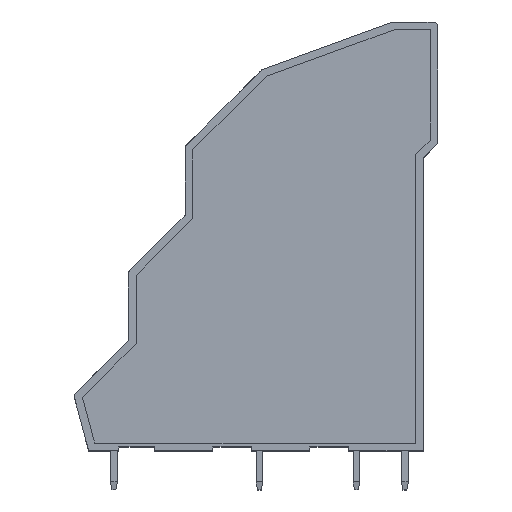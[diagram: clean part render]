
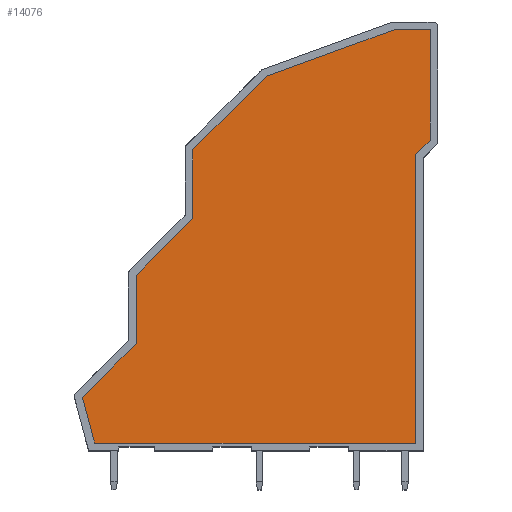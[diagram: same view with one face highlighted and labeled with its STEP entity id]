
A CAD part, top view. The second image highlights one B-rep face of the part: STEP entity #14076.
In plain terms, the highlighted planar face has unit normal (0, 0, 1).
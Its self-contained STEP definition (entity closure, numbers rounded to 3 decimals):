
#4565=DIRECTION('',(0.707,0.707,0.));
#4566=VECTOR('',#4565,10.742);
#4567=CARTESIAN_POINT('',(12.232,31.014,17.2));
#4568=LINE('',#4567,#4566);
#4569=DIRECTION('',(0.94,0.342,0.));
#4570=VECTOR('',#4569,14.005);
#4571=CARTESIAN_POINT('',(19.828,38.61,17.2));
#4572=LINE('',#4571,#4570);
#4573=DIRECTION('',(1.,0.,0.));
#4574=VECTOR('',#4573,3.711);
#4575=CARTESIAN_POINT('',(32.989,43.4,17.2));
#4576=LINE('',#4575,#4574);
#4577=DIRECTION('',(0.,-1.,0.));
#4578=VECTOR('',#4577,11.369);
#4579=CARTESIAN_POINT('',(36.7,43.4,17.2));
#4580=LINE('',#4579,#4578);
#4581=DIRECTION('',(-0.707,-0.707,0.));
#4582=VECTOR('',#4581,2.121);
#4583=CARTESIAN_POINT('',(36.7,32.031,17.2));
#4584=LINE('',#4583,#4582);
#4585=DIRECTION('',(0.,-1.,0.));
#4586=VECTOR('',#4585,29.731);
#4587=CARTESIAN_POINT('',(35.2,30.531,17.2));
#4588=LINE('',#4587,#4586);
#4589=DIRECTION('',(-1.,0.,0.));
#4590=VECTOR('',#4589,33.086);
#4591=CARTESIAN_POINT('',(35.2,0.8,17.2));
#4592=LINE('',#4591,#4590);
#4593=DIRECTION('',(-0.259,0.966,0.));
#4594=VECTOR('',#4593,4.861);
#4595=CARTESIAN_POINT('',(2.114,0.8,17.2));
#4596=LINE('',#4595,#4594);
#4597=DIRECTION('',(0.707,0.707,0.));
#4598=VECTOR('',#4597,7.841);
#4599=CARTESIAN_POINT('',(0.856,5.495,17.2));
#4600=LINE('',#4599,#4598);
#4601=DIRECTION('',(0.,1.,0.));
#4602=VECTOR('',#4601,7.071);
#4603=CARTESIAN_POINT('',(6.4,11.04,17.2));
#4604=LINE('',#4603,#4602);
#4605=DIRECTION('',(0.707,0.707,0.));
#4606=VECTOR('',#4605,8.248);
#4607=CARTESIAN_POINT('',(6.4,18.111,17.2));
#4608=LINE('',#4607,#4606);
#4609=DIRECTION('',(0.,1.,0.));
#4610=VECTOR('',#4609,7.071);
#4611=CARTESIAN_POINT('',(12.232,23.943,17.2));
#4612=LINE('',#4611,#4610);
#6717=CARTESIAN_POINT('',(19.828,38.61,17.2));
#6718=VERTEX_POINT('',#6717);
#6719=CARTESIAN_POINT('',(12.232,31.014,17.2));
#6720=VERTEX_POINT('',#6719);
#6721=CARTESIAN_POINT('',(32.989,43.4,17.2));
#6722=VERTEX_POINT('',#6721);
#6723=CARTESIAN_POINT('',(36.7,43.4,17.2));
#6724=VERTEX_POINT('',#6723);
#6725=CARTESIAN_POINT('',(36.7,32.031,17.2));
#6726=VERTEX_POINT('',#6725);
#6727=CARTESIAN_POINT('',(35.2,30.531,17.2));
#6728=VERTEX_POINT('',#6727);
#6729=CARTESIAN_POINT('',(35.2,0.8,17.2));
#6730=VERTEX_POINT('',#6729);
#6731=CARTESIAN_POINT('',(2.114,0.8,17.2));
#6732=VERTEX_POINT('',#6731);
#6733=CARTESIAN_POINT('',(0.856,5.495,17.2));
#6734=VERTEX_POINT('',#6733);
#6735=CARTESIAN_POINT('',(6.4,11.04,17.2));
#6736=VERTEX_POINT('',#6735);
#6737=CARTESIAN_POINT('',(6.4,18.111,17.2));
#6738=VERTEX_POINT('',#6737);
#6739=CARTESIAN_POINT('',(12.232,23.943,17.2));
#6740=VERTEX_POINT('',#6739);
#14057=CARTESIAN_POINT('',(37.5,813.386,17.2));
#14058=DIRECTION('',(0.,0.,1.));
#14059=DIRECTION('',(1.,0.,0.));
#14060=AXIS2_PLACEMENT_3D('',#14057,#14058,#14059);
#14061=PLANE('',#14060);
#14062=ORIENTED_EDGE('',*,*,#13897,.T.);
#14063=ORIENTED_EDGE('',*,*,#13912,.T.);
#14064=ORIENTED_EDGE('',*,*,#13926,.T.);
#14065=ORIENTED_EDGE('',*,*,#13940,.T.);
#14066=ORIENTED_EDGE('',*,*,#13954,.T.);
#14067=ORIENTED_EDGE('',*,*,#13968,.T.);
#14068=ORIENTED_EDGE('',*,*,#13982,.T.);
#14069=ORIENTED_EDGE('',*,*,#13996,.T.);
#14070=ORIENTED_EDGE('',*,*,#14010,.T.);
#14071=ORIENTED_EDGE('',*,*,#14024,.T.);
#14072=ORIENTED_EDGE('',*,*,#14038,.T.);
#14073=ORIENTED_EDGE('',*,*,#14051,.T.);
#14074=EDGE_LOOP('',(#14062,#14063,#14064,#14065,#14066,#14067,#14068,#14069,
#14070,#14071,#14072,#14073));
#14075=FACE_OUTER_BOUND('',#14074,.F.);
#14076=ADVANCED_FACE('',(#14075),#14061,.T.);
#13897=EDGE_CURVE('',#6720,#6718,#4568,.T.);
#13912=EDGE_CURVE('',#6718,#6722,#4572,.T.);
#13926=EDGE_CURVE('',#6722,#6724,#4576,.T.);
#13940=EDGE_CURVE('',#6724,#6726,#4580,.T.);
#13954=EDGE_CURVE('',#6726,#6728,#4584,.T.);
#13968=EDGE_CURVE('',#6728,#6730,#4588,.T.);
#13982=EDGE_CURVE('',#6730,#6732,#4592,.T.);
#13996=EDGE_CURVE('',#6732,#6734,#4596,.T.);
#14010=EDGE_CURVE('',#6734,#6736,#4600,.T.);
#14024=EDGE_CURVE('',#6736,#6738,#4604,.T.);
#14038=EDGE_CURVE('',#6738,#6740,#4608,.T.);
#14051=EDGE_CURVE('',#6740,#6720,#4612,.T.);
